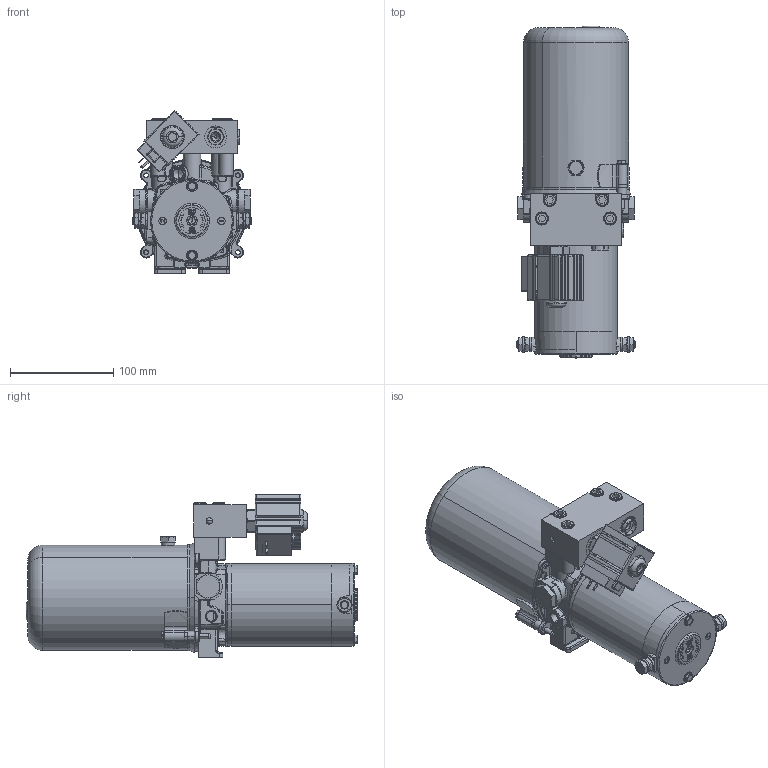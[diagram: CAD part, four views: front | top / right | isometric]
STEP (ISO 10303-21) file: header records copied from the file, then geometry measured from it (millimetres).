
FILE_DESCRIPTION((''),'2;1');
FILE_NAME('648144_SW0001','2013-03-27T',('da10877'),('OILDYNE'),'PRO/ENGINEER BY PARAMETRIC TECHNOLOGY CORPORATION, 2011490','PRO/ENGINEER BY PARAMETRIC TECHNOLOGY CORPORATION, 2011490','');
FILE_SCHEMA(('CONFIG_CONTROL_DESIGN'));
Products named in the file (1): 648144_SW0001
Bounding box: 114.3 x 321.11 x 158.41 mm (x, y, z)
Surface area: 169881.9 mm2 (no closed solid volume)
Topology: 0 solids, 112 shells, 1069 faces, 4387 edges, 3312 vertices
Faces by surface type: plane 403, cylinder 229, cone 207, bspline 113, torus 93, sphere 24
Entity records: 55614 total; most frequent: CARTESIAN_POINT 21591, DIRECTION 6696, ORIENTED_EDGE 6324, EDGE_CURVE 4362, VERTEX_POINT 3312, VECTOR 2238, LINE 2238, AXIS2_PLACEMENT_3D 2229
